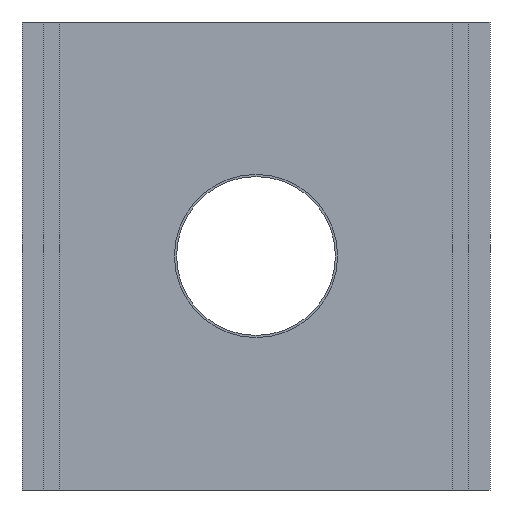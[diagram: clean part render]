
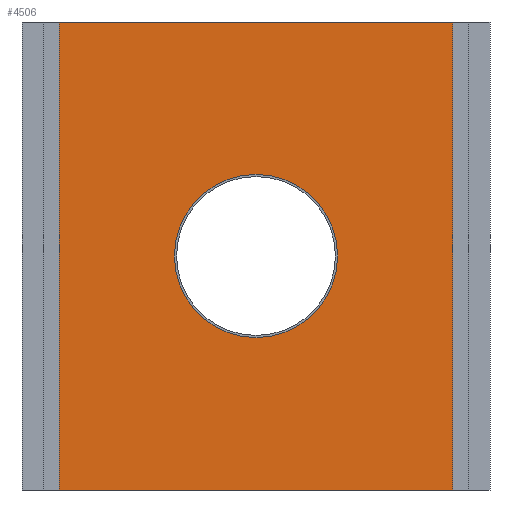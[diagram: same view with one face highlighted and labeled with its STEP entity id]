
A CAD part, front view. The second image highlights one B-rep face of the part: STEP entity #4506.
In plain terms, the highlighted planar face has unit normal (0, -1, 0).
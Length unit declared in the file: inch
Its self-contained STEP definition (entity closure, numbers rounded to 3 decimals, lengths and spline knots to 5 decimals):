
#3968=CARTESIAN_POINT('',(7.22441,-4.25197,8.60236));
#3969=VERTEX_POINT('',#3968);
#3970=CARTESIAN_POINT('',(-7.22441,-4.25197,8.60236));
#3971=VERTEX_POINT('',#3970);
#3972=CARTESIAN_POINT('',(7.22441,-4.25197,8.60236));
#3973=DIRECTION('',(-1.0,0.0,0.0));
#3974=VECTOR('',#3973,14.44882);
#3975=LINE('',#3972,#3974);
#3976=EDGE_CURVE('',#3969,#3971,#3975,.T.);
#4465=CARTESIAN_POINT('',(0.0,-4.25197,0.0));
#4466=DIRECTION('',(0.0,-1.0,0.0));
#4467=DIRECTION('',(0.0,0.0,-1.0));
#4468=AXIS2_PLACEMENT_3D('',#4465,#4466,#4467);
#4469=PLANE('',#4468);
#4470=ORIENTED_EDGE('',*,*,#3976,.T.);
#4471=CARTESIAN_POINT('',(-7.22441,-4.25197,-8.60236));
#4472=VERTEX_POINT('',#4471);
#4473=CARTESIAN_POINT('',(-7.22441,-4.25197,-8.60236));
#4474=DIRECTION('',(0.0,0.0,1.0));
#4475=VECTOR('',#4474,17.20472);
#4476=LINE('',#4473,#4475);
#4477=EDGE_CURVE('',#4472,#3971,#4476,.T.);
#4478=ORIENTED_EDGE('',*,*,#4477,.F.);
#4479=CARTESIAN_POINT('',(7.22441,-4.25197,-8.60236));
#4480=VERTEX_POINT('',#4479);
#4481=CARTESIAN_POINT('',(-7.22441,-4.25197,-8.60236));
#4482=DIRECTION('',(1.0,0.0,0.0));
#4483=VECTOR('',#4482,14.44882);
#4484=LINE('',#4481,#4483);
#4485=EDGE_CURVE('',#4472,#4480,#4484,.T.);
#4486=ORIENTED_EDGE('',*,*,#4485,.T.);
#4487=CARTESIAN_POINT('',(7.22441,-4.25197,-8.60236));
#4488=DIRECTION('',(0.0,0.0,1.0));
#4489=VECTOR('',#4488,17.20472);
#4490=LINE('',#4487,#4489);
#4491=EDGE_CURVE('',#4480,#3969,#4490,.T.);
#4492=ORIENTED_EDGE('',*,*,#4491,.T.);
#4493=EDGE_LOOP('',(#4470,#4478,#4486,#4492));
#4494=FACE_OUTER_BOUND('',#4493,.T.);
#4495=CARTESIAN_POINT('',(3.0,-4.25197,0.0));
#4496=VERTEX_POINT('',#4495);
#4497=CARTESIAN_POINT('',(0.0,-4.25197,0.0));
#4498=DIRECTION('',(0.0,-1.0,0.0));
#4499=DIRECTION('',(1.0,0.0,0.0));
#4500=AXIS2_PLACEMENT_3D('',#4497,#4498,#4499);
#4501=CIRCLE('',#4500,3.0);
#4502=EDGE_CURVE('',#4496,#4496,#4501,.T.);
#4503=ORIENTED_EDGE('',*,*,#4502,.F.);
#4504=EDGE_LOOP('',(#4503));
#4505=FACE_BOUND('',#4504,.T.);
#4506=ADVANCED_FACE('',(#4494,#4505),#4469,.T.);
